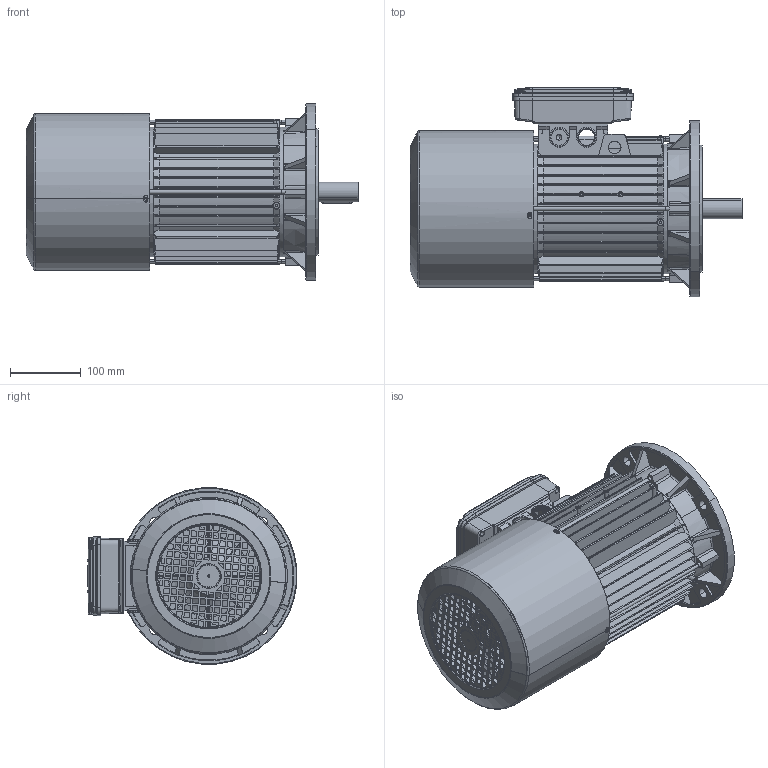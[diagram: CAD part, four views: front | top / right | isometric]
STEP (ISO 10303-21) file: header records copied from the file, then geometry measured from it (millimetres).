
FILE_DESCRIPTION (( 'STEP AP214' ), '1' );
FILE_NAME ('BM 112 B5 - DM.STEP', '2017-10-19T13:46:22', ( '' ), ( '' ), 'SwSTEP 2.0', 'SolidWorks 2017', '' );
FILE_SCHEMA (( 'AUTOMOTIVE_DESIGN' ));
Length unit declared in the file: millimetre
Products named in the file (13): Chiavetta 100-112; Albero BM 112; Tirante SM 112; Scudo Lato Freno P1 BM 112 - DFAN0101; Scudo a flangia B5 Fi 250 BA-BM 112; Carcassa 112 B5; BM 112 B5 - DM; Cuffia BM 112; Scatola per Morsettiera Doppia 90-100-112 - Completa; Vite  a testa bombata M4x16; Coperchio per Scatola per Morsettiera Doppia 90-100-112; Scatola per Morsettiera Doppia 90-100-112; Ventola BM 100-112
Assembly tree (18 placements, depth 3):
  BM 112 B5 - DM
    Carcassa 112 B5
    Scudo a flangia B5 Fi 250 BA-BM 112
    Scudo Lato Freno P1 BM 112 - DFAN0101
    Tirante SM 112  x4
    Albero BM 112
    Chiavetta 100-112
    Ventola BM 100-112
    Scatola per Morsettiera Doppia 90-100-112 - Completa
      Scatola per Morsettiera Doppia 90-100-112
      Coperchio per Scatola per Morsettiera Doppia 90-100-112
      Vite  a testa bombata M4x16  x4
    Cuffia BM 112
Bounding box: 469.25 x 296.52 x 249.05 mm (x, y, z)
Volume: 2419883.1 mm3; surface area: 1271283.9 mm2
Topology: 21 solids, 21 shells, 3578 faces, 9826 edges, 6285 vertices
Faces by surface type: cylinder 1426, plane 1307, torus 372, cone 295, bspline 178
Entity records: 125177 total; most frequent: CARTESIAN_POINT 39909, ORIENTED_EDGE 18456, DIRECTION 16842, EDGE_CURVE 9228, AXIS2_PLACEMENT_3D 6262, VERTEX_POINT 5961, LINE 4318, VECTOR 4318
